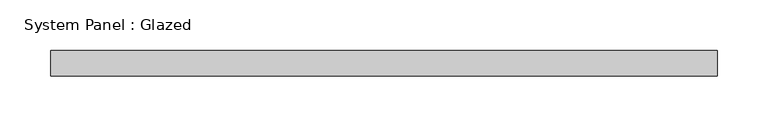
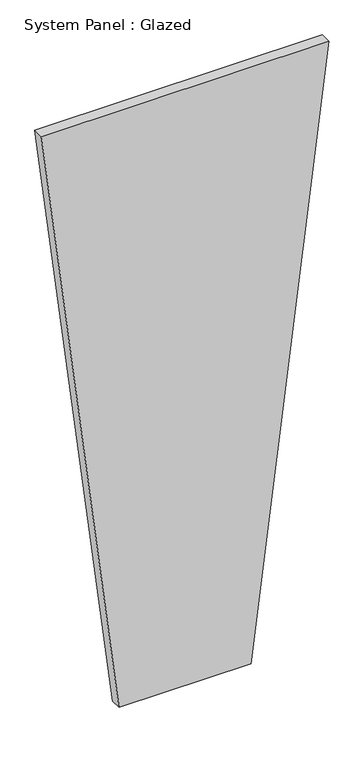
"""IFC4 building model written with IfcOpenShell, lengths in millimetres: plate geometry, System Panel : Glazed."""

import ifcopenshell
import ifcopenshell.guid

model = None  # the IFC model being written
_history = None  # IfcOwnerHistory: only IFC2X3 demands one
_inside = {}  # id of a spatial element -> (the spatial element, [elements in it])
_under = {}  # id of a project, library or spatial element -> (it, [spatial elements below it])
_declared = {}  # id of a project -> (the project, [libraries it declares])
_typed = {}  # id of a type object -> (the type object, [elements of that type])
_made_of = {}  # id of a material, layer set ... -> (it, [elements and type objects made of it])


def new_model(schema):
    """Start an empty IFC model of exactly this schema.

    Asked for "IFC4X3", IfcOpenShell would pick the latest addendum, in which some entities
    have other attributes; the version numbers below select the first issue.
    IFC2X3 requires an IfcOwnerHistory on every rooted entity: one is made here for all.
    """
    global model, _history
    if schema == "IFC4X3":
        model = ifcopenshell.file(schema_version=(4, 3, 0, 0))
    else:
        model = ifcopenshell.file(schema=schema)
    _inside.clear()
    _under.clear()
    _declared.clear()
    _typed.clear()
    _made_of.clear()
    _history = None
    if model.schema == "IFC2X3":
        org = make("IfcOrganization", Name="unknown")
        user = make(
            "IfcPersonAndOrganization",
            ThePerson=make("IfcPerson", FamilyName="unknown"),
            TheOrganization=org,
        )
        app = make(
            "IfcApplication",
            ApplicationDeveloper=org,
            Version="unknown",
            ApplicationFullName="unknown",
            ApplicationIdentifier="unknown",
        )
        _history = make(
            "IfcOwnerHistory",
            OwningUser=user,
            OwningApplication=app,
            ChangeAction="ADDED",
            CreationDate=0,
        )
    return model


def make(cls, **values):
    """One entity of the class cls with the attributes given. An attribute that is None is left unset."""
    return model.create_entity(
        cls, **{name: value for name, value in values.items() if value is not None}
    )


def rooted(cls, **values):
    """An entity with a GlobalId (a new one), such as an element, a storey or a relation."""
    return make(cls, GlobalId=ifcopenshell.guid.new(), OwnerHistory=_history, **values)


def si_unit(unit_type, name, prefix=None):
    """IfcSIUnit, for example si_unit("LENGTHUNIT", "METRE", prefix="MILLI")."""
    return make("IfcSIUnit", UnitType=unit_type, Prefix=prefix, Name=name)


def assignment(units):
    """IfcUnitAssignment: the units of a project."""
    return None if units is None else make("IfcUnitAssignment", Units=units)


def point(xyz):
    """IfcCartesianPoint."""
    return None if xyz is None else make("IfcCartesianPoint", Coordinates=xyz)


def direction(xyz):
    """IfcDirection."""
    return None if xyz is None else make("IfcDirection", DirectionRatios=xyz)


def frame(location, z_axis=None, x_axis=None):
    """IfcAxis2Placement3D, a coordinate frame: its origin and axes. An axis left out is left unset."""
    return make(
        "IfcAxis2Placement3D",
        Location=point(location),
        Axis=direction(z_axis),
        RefDirection=direction(x_axis),
    )


def origin():
    """The frame at (0, 0, 0) with its axes left unset."""
    return frame((0.0, 0.0, 0.0))


def place(relative_to, where):
    """IfcLocalPlacement: puts the frame where relative to a parent placement (None: the world)."""
    return make(
        "IfcLocalPlacement", PlacementRelTo=relative_to, RelativePlacement=where
    )


def context(
    kind, dimensions, precision=None, world=None, true_north=None, identifier=None
):
    """IfcGeometricRepresentationContext, for example the 3D "Model" context."""
    return make(
        "IfcGeometricRepresentationContext",
        ContextIdentifier=identifier,
        ContextType=kind,
        CoordinateSpaceDimension=dimensions,
        Precision=precision,
        WorldCoordinateSystem=world,
        TrueNorth=true_north,
    )


def project(units=None, contexts=None):
    """IfcProject with its units and contexts."""
    return rooted(
        "IfcProject",
        Name="project",
        RepresentationContexts=contexts,
        UnitsInContext=assignment(units),
    )


def spatial(cls, under=None, at=None, **own):
    """A site, building, storey or space (cls), placed at a placement, below another one or the project."""
    s = rooted(cls, ObjectPlacement=at, **own)
    if under is not None:
        _under.setdefault(under.id(), (under, []))[1].append(s)
    return s


def polyline(points):
    """IfcPolyline through the points."""
    return make("IfcPolyline", Points=[point(p) for p in points])


def outline(outer, holes=None, kind="AREA"):
    """IfcArbitraryClosedProfileDef: a profile drawn as a closed curve; with holes, ...WithVoids."""
    if holes is None:
        return make("IfcArbitraryClosedProfileDef", ProfileType=kind, OuterCurve=outer)
    return make(
        "IfcArbitraryProfileDefWithVoids",
        ProfileType=kind,
        OuterCurve=outer,
        InnerCurves=holes,
    )


def extrude(swept, where, along, depth):
    """IfcExtrudedAreaSolid: the profile swept, set in the frame where, extruded along a direction by depth."""
    return make(
        "IfcExtrudedAreaSolid",
        SweptArea=swept,
        Position=where,
        ExtrudedDirection=direction(along),
        Depth=depth,
    )


def shape(context_of_items, identifier, shape_type, items):
    """IfcShapeRepresentation: the items that make up one representation, for example the "Body"."""
    return make(
        "IfcShapeRepresentation",
        ContextOfItems=context_of_items,
        RepresentationIdentifier=identifier,
        RepresentationType=shape_type,
        Items=items,
    )


def source(mapping_origin, context_of_items, identifier, shape_type, items):
    """IfcRepresentationMap: a shape defined once, which mapped items show again and again."""
    return make(
        "IfcRepresentationMap",
        MappingOrigin=mapping_origin,
        MappedRepresentation=shape(context_of_items, identifier, shape_type, items),
    )


def transform(
    local_origin,
    x_axis=None,
    y_axis=None,
    z_axis=None,
    scale=None,
    scale2=None,
    scale3=None,
    uniform=True,
):
    """IfcCartesianTransformationOperator3D, or its non-uniform kind. x_axis, y_axis, z_axis: its Axis1, 2, 3."""
    if uniform:
        return make(
            "IfcCartesianTransformationOperator3D",
            Axis1=direction(x_axis),
            Axis2=direction(y_axis),
            LocalOrigin=point(local_origin),
            Scale=scale,
            Axis3=direction(z_axis),
        )
    return make(
        "IfcCartesianTransformationOperator3DnonUniform",
        Axis1=direction(x_axis),
        Axis2=direction(y_axis),
        LocalOrigin=point(local_origin),
        Scale=scale,
        Axis3=direction(z_axis),
        Scale2=scale2,
        Scale3=scale3,
    )


def mapped(mapping_source, mapping_target):
    """IfcMappedItem: shows the shape of a source again, moved by a transform."""
    return make(
        "IfcMappedItem", MappingSource=mapping_source, MappingTarget=mapping_target
    )


def made_of(thing, what):
    """Note that an element or type object is made of a material, layer set ...; save() writes the relation."""
    if what is not None:
        _made_of.setdefault(what.id(), (what, []))[1].append(thing)
    return thing


def element(
    cls,
    number,
    at=None,
    inside=None,
    cuts=None,
    type_object=None,
    material=None,
    context=None,
    identifier="Body",
    shape_type=None,
    held_by="IfcProductDefinitionShape",
    body=None,
    shapes=None,
    **own,
):
    """One element of the class cls, such as IfcWall. Its Tag is "e" and its number.

    at: its placement. inside: the storey or other place that contains it. cuts: it is an
    opening in that element (IfcRelVoidsElement). A single representation is given by context,
    identifier, shape_type and body (its items); several are given by shapes. held_by: the class
    of the entity that holds the representations. save() writes the other relations.
    """
    e = rooted(cls, Tag="e%d" % number, ObjectPlacement=at, **own)
    if body is not None:
        shapes = [shape(context, identifier, shape_type, body)]
    if shapes is not None:
        e.Representation = make(held_by, Representations=shapes)
    if inside is not None:
        _inside.setdefault(inside.id(), (inside, []))[1].append(e)
    if cuts is not None:
        rooted(
            "IfcRelVoidsElement", RelatingBuildingElement=cuts, RelatedOpeningElement=e
        )
    if type_object is not None:
        _typed.setdefault(type_object.id(), (type_object, []))[1].append(e)
    return made_of(e, material)


def aggregate(whole, parts):
    """IfcRelAggregates: a whole, such as a stair, and the parts it consists of."""
    return rooted("IfcRelAggregates", RelatingObject=whole, RelatedObjects=parts)


def save(model, path):
    """Write the relations noted so far, then the file.

    IfcRelAggregates (storeys below a building ...), IfcRelContainedInSpatialStructure (elements
    in a storey), IfcRelDefinesByType, IfcRelAssociatesMaterial and IfcRelDeclares: one each for
    every whole, place, type object, material and project.
    """
    for whole, parts in _under.values():
        aggregate(whole, parts)
    for where, things in _inside.values():
        rooted(
            "IfcRelContainedInSpatialStructure",
            RelatedElements=things,
            RelatingStructure=where,
        )
    for kind, things in _typed.values():
        rooted("IfcRelDefinesByType", RelatedObjects=things, RelatingType=kind)
    for what, things in _made_of.values():
        rooted("IfcRelAssociatesMaterial", RelatedObjects=things, RelatingMaterial=what)
    for by, libraries in _declared.values():
        rooted("IfcRelDeclares", RelatingContext=by, RelatedDefinitions=libraries)
    model.write(path)


def system_panel_glazed_b58a9e73(model_context):
    return source(origin(), model_context, "Body", "SweptSolid", [
        extrude(outline(polyline([(0.0, -150.868438), (0.0, 150.868438), (1438.7050229, 328.4293271), (1438.7050229, -328.4293271), (0.0, -150.868438)])), frame((0.0, -49.5, 0.0), z_axis=(0.0, 1.0, 0.0), x_axis=(0.0, 0.0, 1.0)), (0.0, 0.0, 1.0), 25.0),
    ])


if __name__ == "__main__":
    model = new_model("IFC4")
    model_context = context("Model", 3, world=origin())
    ifc_project = project(units=[si_unit("LENGTHUNIT", "METRE", prefix="MILLI")], contexts=[model_context])
    site = spatial("IfcSite", under=ifc_project)
    building = spatial("IfcBuilding", under=site)
    placement = place(None, origin())
    system_panel_glazed_shape = system_panel_glazed_b58a9e73(model_context)
    element("IfcPlate", 1, ObjectType="System Panel : Glazed", at=placement, inside=building, context=model_context, shape_type="MappedRepresentation", body=[
        mapped(system_panel_glazed_shape, transform((0.0, 0.0, 0.0), x_axis=(1.0, 0.0, 0.0), y_axis=(0.0, 1.0, 0.0), z_axis=(0.0, 0.0, 1.0))),
    ])
    save(model, "model.ifc")
